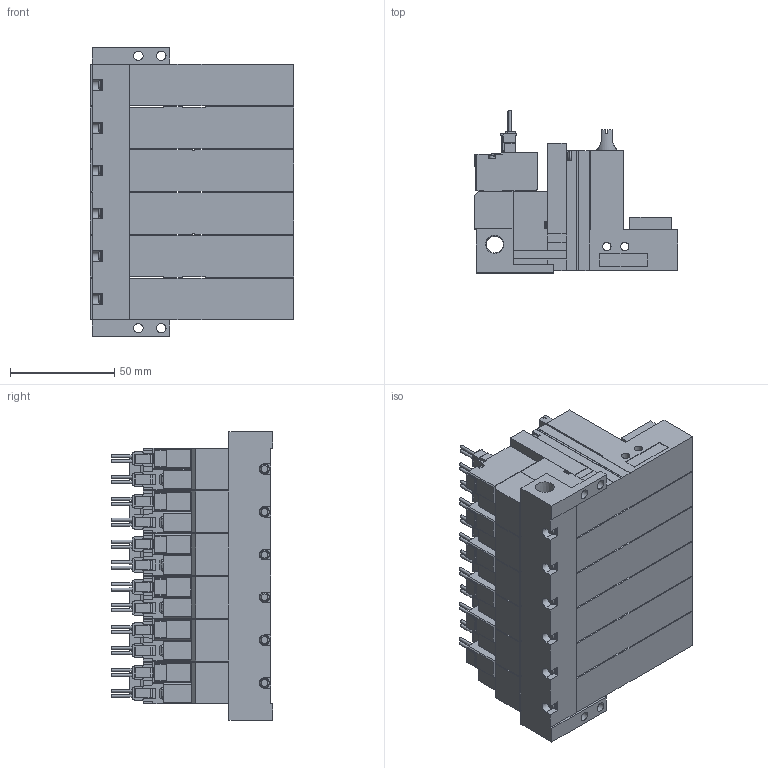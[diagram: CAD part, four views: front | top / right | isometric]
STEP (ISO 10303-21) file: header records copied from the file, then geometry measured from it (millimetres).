
FILE_DESCRIPTION(('STEP AP203'),'1');
FILE_NAME('ZLC5ALR606.stp','2025-02-19T02:04:32',(' '),(' '),'Spatial InterOp 3D',' ',' ');
FILE_SCHEMA(('CONFIG_CONTROL_DESIGN'));
Length unit declared in the file: millimetre
Products named in the file (5): BMC22M※※※※ZLC5ALR606; Solenoid valve A; Pressure sensor ZLC; Unit LC; Base MR60R
Assembly tree (19 placements, depth 2):
  BMC22M※※※※ZLC5ALR606
    Solenoid valve A  x6
    Pressure sensor ZLC  x6
    Unit LC  x6
    Base MR60R
Bounding box: 97.6 x 77.45 x 138.5 mm (x, y, z)
Volume: 539817.7 mm3; surface area: 143098.5 mm2
Topology: 19 solids, 19 shells, 2313 faces, 6275 edges, 4114 vertices
Faces by surface type: plane 1994, cylinder 245, cone 44, torus 30
Full cylindrical faces by diameter (mm): 1.4 x24, 2.5 x6, 3 x24, 3.5 x24, 3.6 x6, 4 x12, 4.134 x6, 4.5 x4, 5.2 x6, 6 x6, 6.6 x6, 8.279 x1
Entity records: 15061 total; most frequent: CARTESIAN_POINT 2918, DIRECTION 2385, ORIENTED_EDGE 2354, EDGE_CURVE 1177, LINE 961, VECTOR 961, VERTEX_POINT 819, AXIS2_PLACEMENT_3D 712
